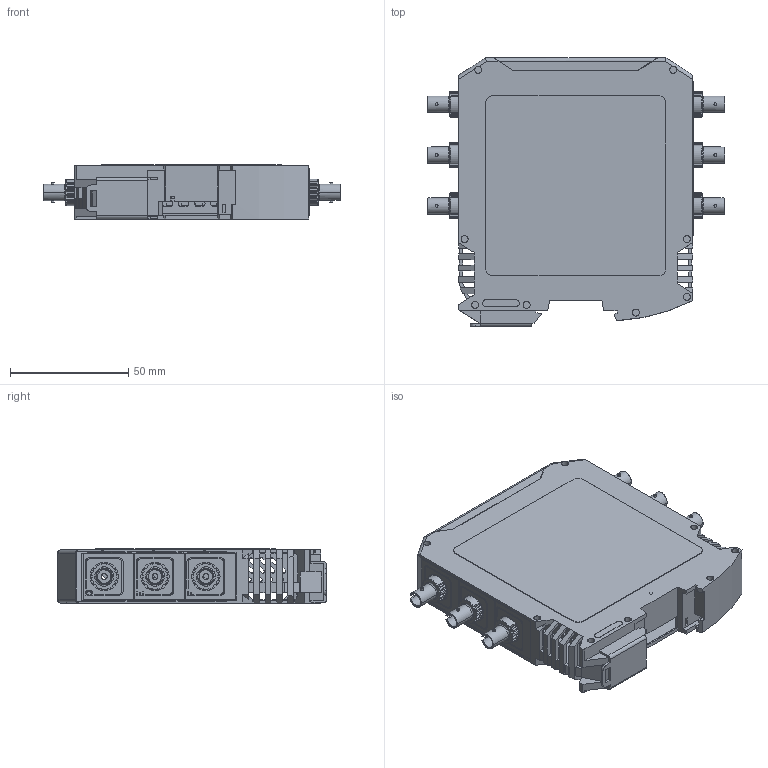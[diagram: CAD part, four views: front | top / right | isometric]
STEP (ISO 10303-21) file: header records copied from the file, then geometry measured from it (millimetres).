
FILE_DESCRIPTION (( 'STEP AP214' ), '1' );
FILE_NAME ('FTX-602-PWR+3.STEP', '2015-11-16T23:30:16', ( 'Daryl' ), ( 'Microsoft' ), 'SwSTEP 2.0', 'SolidWorks 2014', '' );
FILE_SCHEMA (( 'AUTOMOTIVE_DESIGN' ));
Length unit declared in the file: millimetre
Products named in the file (1): FTX-602-PWR+3
Bounding box: 125.67 x 113.78 x 22.95 mm (x, y, z)
Volume: 55146.6 mm3; surface area: 82250.3 mm2
Topology: 1 solids, 25 shells, 3399 faces, 9825 edges, 6529 vertices
Faces by surface type: plane 1810, cylinder 789, bspline 606, cone 188, torus 6
Entity records: 219253 total; most frequent: CARTESIAN_POINT 98958, ORIENTED_EDGE 19650, DIRECTION 13264, EDGE_CURVE 9825, VERTEX_POINT 6529, LINE 5756, VECTOR 5756, AXIS2_PLACEMENT_3D 3754
